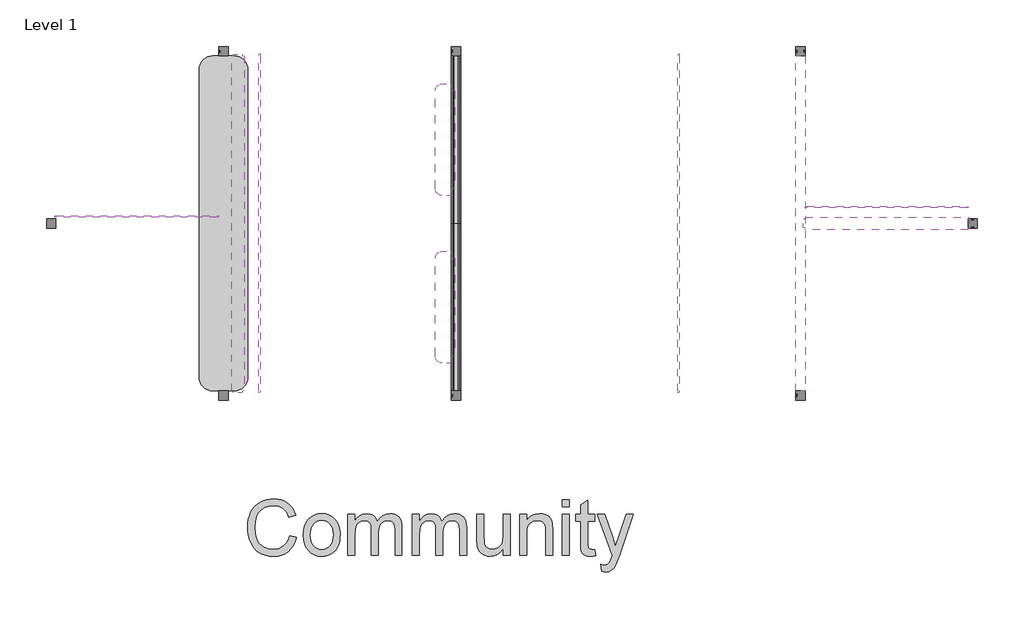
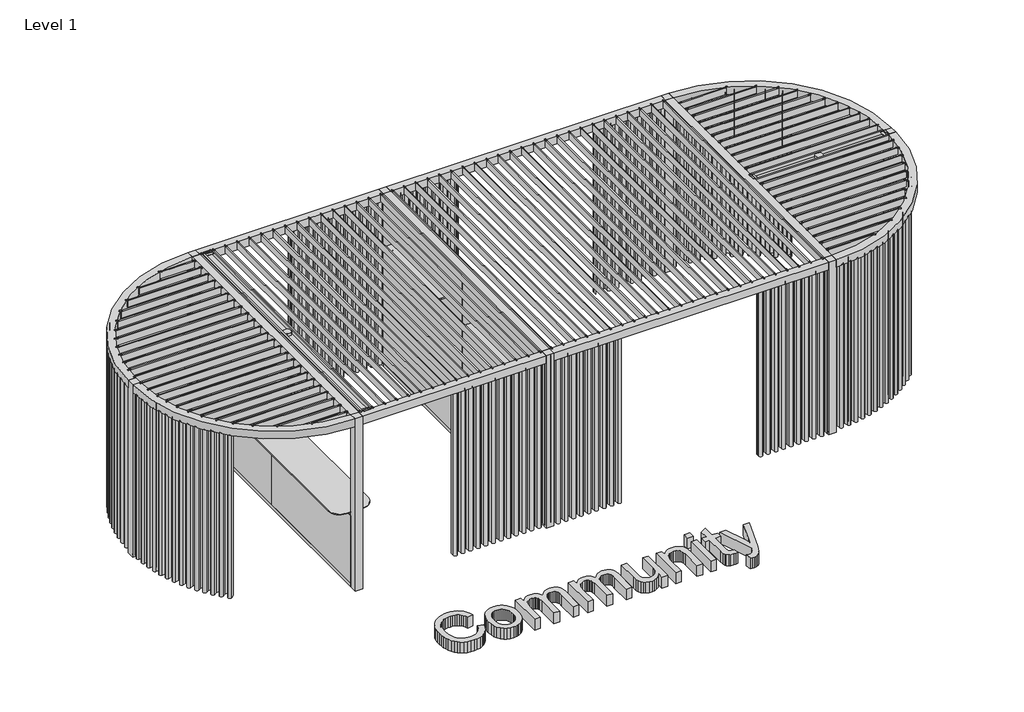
# One storey: 28 furniture elements, 1 proxy.
"""IFC4 building model written with IfcOpenShell, lengths in millimetres."""

from ifc_helpers import new_model, si_unit, origin, origin_with_axes, place, context, project, spatial, polyline, outline, extrude, transform, mapped, element, save
from components import furniture_144w_full_round_0b8315b5, furniture_144w_full_round_390d80ab, furniture_144w_half_round_df257ffa, furniture_144w_half_round_812f437a, furniture_48w_25386db9, furniture_72_in_radius_half_open_drapery_9427be67, furniture_72_in_radius_half_open_drapery_df3e1c9b, haworth_pergola_ceiling_lighttrough_144w_fb86ef7f, haworth_pergola_ceiling_lighttrough_70w_36a8bbfd, haworth_pergola_ceiling_slat_144d_144w_cf5a7e63, haworth_pergola_ceiling_slat_144d_144w_9080f0d2, haworth_pergola_ceiling_slat_96d_144w_e5801aca, haworth_pergola_ceiling_slat_96d_144w_89231c02, haworth_pergola_drapery_straight_144w_half_open_drapery_b4fdcbc4, haworth_pergola_drapery_straight_144w_half_open_drapery_ee76ada1, haworth_pergola_drapery_straight_96w_half_open_drapery_98fae5b1, haworth_pergola_drapery_straight_96w_half_open_drapery_5506e995, haworth_pergola_panel_post_3_way_connector_7bc44f38, haworth_pergola_panel_post_3_way_connector_a8890e0e, haworth_pergola_panel_straighthorizontaltiles_3a19913a, haworth_pergola_panel_straighthorizontaltiles_da99c4b1, haworth_pergola_panel_toprail_straight_144w_aeb962f4, two_sided_144w_44061c4d

model = new_model("IFC4")

# Units and contexts
model_context = context("Model", 3, world=origin())
ifc_project = project(units=[si_unit("LENGTHUNIT", "METRE", prefix="MILLI")], contexts=[model_context])

# Site, building, storey
site = spatial("IfcSite", under=ifc_project)
building = spatial("IfcBuilding", under=site)
storey = spatial("IfcBuildingStorey", under=building, Name="Level 1", Elevation=0.0)

# Proxy
placement = place(None, origin())
element("IfcBuildingElementProxy", 1, Name="24\" Arial", ObjectType="24\" Arial", at=placement, inside=storey, context=model_context, shape_type="SweptSolid", body=[
    extrude(outline(polyline([(-1818.9665001, -3407.4868383), (-1742.8247266, -3427.1171393), (-1757.8913544, -3474.4687341), (-1777.958504, -3515.843869), (-1803.0261752, -3551.2425438), (-1833.0943683, -3580.6647587), (-1867.4845736, -3603.7944954), (-1905.5182818, -3620.315736), (-1947.1954928, -3630.2284803), (-1992.5162066, -3633.5327284), (-2038.9476311, -3631.0324675), (-2080.8339717, -3623.5316849), (-2118.1752284, -3611.0303805), (-2150.9714013, -3593.5285544), (-2179.6732807, -3571.2864568), (-2204.7316574, -3544.5643378), (-2226.1465312, -3513.3621974), (-2243.9179022, -3477.6800357), (-2257.8738193, -3439.0607646), (-2267.8423315, -3399.047296), (-2273.8234388, -3357.6396298), (-2275.8171413, -3314.8377662), (-2273.5631886, -3268.9129001), (-2266.8013307, -3226.01809), (-2255.5315674, -3186.1533357), (-2239.7538989, -3149.3186374), (-2219.8215218, -3116.1227946), (-2196.0876328, -3087.1746069), (-2168.5522319, -3062.4740743), (-2137.2153191, -3042.0211968), (-2103.1411319, -3025.9832781), (-2067.3939077, -3014.5276219), (-2029.9736464, -3007.6542281), (-1990.8803482, -3005.3630969), (-1947.3302652, -3008.3280903), (-1907.3958011, -3017.2230704), (-1871.0769559, -3032.0480373), (-1838.3737295, -3052.8029909), (-1809.8252118, -3078.939547), (-1785.9704923, -3109.9093211), (-1766.8095712, -3145.7123132), (-1752.3424483, -3186.3485234), (-1828.4842218, -3204.4916804), (-1840.4743205, -3174.5489651), (-1854.8810281, -3148.9654407), (-1871.7043447, -3127.7411073), (-1890.9442704, -3110.8759647), (-1912.7123409, -3098.0261109), (-1937.1200921, -3088.847644), (-1964.1675238, -3083.3405638), (-1993.8546362, -3081.5048704), (-2028.0124753, -3083.5403988), (-2059.2517942, -3089.6469839), (-2087.572593, -3099.8246257), (-2112.9748717, -3114.0733243), (-2135.1379649, -3131.7517488), (-2153.741207, -3152.2185683), (-2168.7845982, -3175.4737828), (-2180.2681384, -3201.5173923), (-2194.8235604, -3257.2481143), (-2199.6753677, -3314.6890518), (-2193.931274, -3385.0309637), (-2186.7511568, -3416.632774), (-2176.6989927, -3445.8551538), (-2163.6121254, -3472.1171876), (-2147.3278984, -3494.8379598), (-2127.8463119, -3514.0174702), (-2105.1673656, -3529.655719), (-2080.3924758, -3541.7898847), (-2054.6230585, -3550.4571459), (-2027.8591135, -3555.6575026), (-2000.1006411, -3557.3909549), (-1966.9977448, -3555.0301138), (-1936.5438238, -3547.9475904), (-1908.738878, -3536.1433848), (-1883.5829076, -3519.6174969), (-1861.67077, -3498.444284), (-1843.5973229, -3472.6981033), (-1829.3625663, -3442.3789547), (-1818.9665001, -3407.4868383)])), origin_with_axes(), (0.0, 0.0, 1.0), 152.4),
    extrude(outline(polyline([(-1666.6829531, -3400.348547), (-1662.5654231, -3342.414993), (-1650.2128332, -3292.4934274), (-1629.6251832, -3250.5838501), (-1600.8024733, -3216.6862613), (-1571.7845757, -3195.0204319), (-1539.7552115, -3179.5448395), (-1504.7143807, -3170.2594841), (-1466.6620832, -3167.1643656), (-1424.6549122, -3170.9333462), (-1386.6723246, -3182.240288), (-1352.7143205, -3201.0851911), (-1322.7808999, -3227.4680554), (-1298.3499121, -3260.4965945), (-1280.8992066, -3299.2785219), (-1270.4287833, -3343.8138378), (-1266.9386422, -3394.1025421), (-1268.4815541, -3434.8595828), (-1273.1102898, -3471.0250663), (-1280.8248494, -3502.5989926), (-1291.6252328, -3529.5813618), (-1305.3766676, -3552.8876969), (-1321.9443814, -3573.4335209), (-1341.3283741, -3591.2188339), (-1363.5286459, -3606.2436357), (-1387.6807941, -3618.1826138), (-1412.9204164, -3626.7104552), (-1439.2475128, -3631.8271601), (-1466.6620832, -3633.5327284), (-1509.2827012, -3629.7776898), (-1547.6184855, -3618.5125739), (-1581.6694361, -3599.7373807), (-1611.435553, -3573.4521102), (-1635.6062905, -3540.1029057), (-1652.8711031, -3500.1359103), (-1663.2299906, -3453.5511241), (-1666.6829531, -3400.348547)]), holes=[polyline([(-1590.5411796, -3400.1998326), (-1588.3383475, -3437.1321247), (-1581.7298513, -3469.1103683), (-1570.715691, -3496.1345635), (-1555.2958665, -3518.2047101), (-1536.5392626, -3535.3486922), (-1515.5147641, -3547.5943937), (-1492.222371, -3554.9418146), (-1466.6620832, -3557.3909549), (-1441.2319206, -3554.9278726), (-1418.032474, -3547.5386258), (-1397.0637434, -3535.2232144), (-1378.3257288, -3517.9816385), (-1362.9059043, -3495.6930676), (-1351.891744, -3468.2366712), (-1345.2832477, -3435.6124494), (-1343.0804157, -3397.8204022), (-1345.2971897, -3362.059236), (-1351.9475119, -3330.9175108), (-1363.0313821, -3304.3952268), (-1378.5488004, -3282.4923839), (-1397.3565249, -3265.3484018), (-1418.3113135, -3253.1027003), (-1441.4131663, -3245.7552794), (-1466.6620832, -3243.3061391), (-1492.222371, -3245.7459848), (-1515.5147641, -3253.0655217), (-1536.5392626, -3265.26475), (-1555.2958665, -3282.3436695), (-1570.715691, -3304.3487536), (-1581.7298513, -3331.3264754), (-1588.3383475, -3363.2768351), (-1590.5411796, -3400.1998326)])]), origin_with_axes(), (0.0, 0.0, 1.0), 152.4),
    extrude(outline(polyline([(-1181.2791469, -3624.0150067), (-1181.2791469, -3176.6820873), (-1105.1373734, -3176.6820873), (-1105.1373734, -3250.295716), (-1082.2353556, -3216.481779), (-1052.7899041, -3189.9920262), (-1017.8048412, -3172.8712808), (-978.283989, -3167.1643656), (-935.9375632, -3172.9828166), (-917.9152367, -3180.2558803), (-901.9935011, -3190.4381694), (-888.2188297, -3203.2415499), (-876.6376957, -3218.3778876), (-860.0560399, -3255.6494344), (-832.3022148, -3216.9372168), (-800.6446366, -3189.2856328), (-765.0833053, -3172.6946824), (-725.6182211, -3167.1643656), (-695.1364161, -3169.4647915), (-668.3817658, -3176.3660692), (-645.3542702, -3187.8681987), (-626.0539293, -3203.9711799), (-610.7967612, -3224.860906), (-599.898784, -3250.7232699), (-593.3599976, -3281.5582716), (-591.1804022, -3317.365911), (-591.1804022, -3624.0150067), (-667.3221757, -3624.0150067), (-667.3221757, -3350.0830793), (-669.0881592, -3312.1051391), (-674.3861098, -3286.5076727), (-684.3127961, -3268.9779627), (-699.9649868, -3255.2032912), (-720.0971989, -3246.2804271), (-743.4639492, -3243.3061391), (-765.0414794, -3245.2115424), (-784.7136063, -3250.9277522), (-802.48033, -3260.4547685), (-818.3416503, -3273.7925914), (-831.3866917, -3291.3315961), (-840.7045784, -3313.462158), (-846.2953105, -3340.184277), (-848.1588878, -3371.4979531), (-848.1588878, -3624.0150067), (-924.3006613, -3624.0150067), (-924.3006613, -3341.6063584), (-928.7063255, -3298.5535392), (-934.2134056, -3281.6558654), (-941.9233179, -3267.8440154), (-952.1427857, -3257.1086945), (-965.1785324, -3249.4406082), (-981.0305581, -3244.8397564), (-999.6988628, -3243.3061391), (-1029.0327785, -3247.3957852), (-1056.061621, -3259.6647233), (-1078.3687812, -3279.8155247), (-1093.5376501, -3307.5507605), (-1102.2374426, -3346.0306119), (-1105.1373734, -3398.4152598), (-1105.1373734, -3624.0150067), (-1181.2791469, -3624.0150067)])), origin_with_axes(), (0.0, 0.0, 1.0), 152.4),
    extrude(outline(polyline([(-476.9677419, -3624.0150067), (-476.9677419, -3176.6820873), (-400.8259684, -3176.6820873), (-400.8259684, -3250.295716), (-377.9239506, -3216.481779), (-348.4784991, -3189.9920262), (-313.4934362, -3172.8712808), (-273.972584, -3167.1643656), (-231.6261582, -3172.9828166), (-213.6038317, -3180.2558803), (-197.6820961, -3190.4381694), (-183.9074247, -3203.2415499), (-172.3262906, -3218.3778876), (-155.7446349, -3255.6494344), (-127.9908097, -3216.9372168), (-96.3332315, -3189.2856328), (-60.7719003, -3172.6946824), (-21.306816, -3167.1643656), (9.1749889, -3169.4647915), (35.9296392, -3176.3660692), (58.9571348, -3187.8681987), (78.2574757, -3203.9711799), (93.5146438, -3224.860906), (104.4126211, -3250.7232699), (110.9514074, -3281.5582716), (113.1310028, -3317.365911), (113.1310028, -3624.0150067), (36.9892293, -3624.0150067), (36.9892293, -3350.0830793), (35.2232458, -3312.1051391), (29.9252953, -3286.5076727), (19.998609, -3268.9779627), (4.3464182, -3255.2032912), (-15.7857939, -3246.2804271), (-39.1525442, -3243.3061391), (-60.7300744, -3245.2115424), (-80.4022013, -3250.9277522), (-98.1689249, -3260.4547685), (-114.0302453, -3273.7925914), (-127.0752867, -3291.3315961), (-136.3931734, -3313.462158), (-141.9839054, -3340.184277), (-143.8474828, -3371.4979531), (-143.8474828, -3624.0150067), (-219.9892563, -3624.0150067), (-219.9892563, -3341.6063584), (-224.3949204, -3298.5535392), (-229.9020006, -3281.6558654), (-237.6119129, -3267.8440154), (-247.8313806, -3257.1086945), (-260.8671274, -3249.4406082), (-276.7191531, -3244.8397564), (-295.3874578, -3243.3061391), (-324.7213735, -3247.3957852), (-351.7502159, -3259.6647233), (-374.0573761, -3279.8155247), (-389.2262451, -3307.5507605), (-397.9260376, -3346.0306119), (-400.8259684, -3398.4152598), (-400.8259684, -3624.0150067), (-476.9677419, -3624.0150067)])), origin_with_axes(), (0.0, 0.0, 1.0), 152.4),
    extrude(outline(polyline([(512.8753138, -3624.0150067), (512.8753138, -3547.1296612), (485.325971, -3584.9310031), (453.2408388, -3611.9319616), (416.6199175, -3628.1325367), (375.4632069, -3633.5327284), (338.3775531, -3629.7405112), (303.8572226, -3618.3638595), (274.895093, -3601.2617033), (254.4840414, -3580.2929727), (240.7465485, -3554.8256315), (231.8050952, -3524.2276434), (227.3436631, -3453.4395883), (227.3436631, -3176.6820873), (303.4854366, -3176.6820873), (303.4854366, -3417.5994176), (304.6379732, -3465.7828836), (308.0955831, -3495.2283351), (319.1933953, -3521.1232302), (338.2102494, -3540.8092991), (363.8820729, -3553.2455409), (394.9447935, -3557.3909549), (427.7920869, -3553.1525944), (458.5202001, -3540.4375131), (483.8574162, -3520.4168368), (500.5320185, -3494.2616915), (509.78949, -3458.44011), (512.8753138, -3409.4201255), (512.8753138, -3176.6820873), (589.0170873, -3176.6820873), (589.0170873, -3624.0150067), (512.8753138, -3624.0150067)])), origin_with_axes(), (0.0, 0.0, 1.0), 152.4),
    extrude(outline(polyline([(693.7120259, -3624.0150067), (693.7120259, -3176.6820873), (769.8537994, -3176.6820873), (769.8537994, -3239.1421359), (796.3063736, -3207.6518614), (828.0754876, -3185.1588082), (865.1611414, -3171.6629762), (907.5633351, -3167.1643656), (945.0951322, -3170.7892791), (979.4667482, -3181.6640197), (1008.1314491, -3198.4315685), (1028.5425007, -3219.7349065), (1042.3915293, -3245.5182658), (1051.3701613, -3275.7258786), (1055.3854501, -3349.3395073), (1055.3854501, -3624.0150067), (979.2436766, -3624.0150067), (979.2436766, -3359.600801), (977.0501392, -3320.2286632), (970.4695269, -3292.2331772), (958.3307139, -3272.1753223), (939.4625742, -3256.616078), (915.2778947, -3246.6336239), (887.1894621, -3243.3061391), (864.06902, -3245.1743638), (842.593731, -3250.7790378), (822.7635951, -3260.1201611), (804.5786122, -3273.1977338), (789.3865066, -3291.4988998), (778.5350026, -3316.5108032), (772.0241002, -3348.233444), (769.8537994, -3386.6668221), (769.8537994, -3624.0150067), (693.7120259, -3624.0150067)])), origin_with_axes(), (0.0, 0.0, 1.0), 152.4),
    extrude(outline(polyline([(1160.0803887, -3091.0225921), (1160.0803887, -3014.8808186), (1236.2221622, -3014.8808186), (1236.2221622, -3091.0225921), (1160.0803887, -3091.0225921)])), origin_with_axes(), (0.0, 0.0, 1.0), 152.4),
    extrude(outline(polyline([(1160.0803887, -3624.0150067), (1160.0803887, -3176.6820873), (1236.2221622, -3176.6820873), (1236.2221622, -3624.0150067), (1160.0803887, -3624.0150067)])), origin_with_axes(), (0.0, 0.0, 1.0), 152.4),
    extrude(outline(polyline([(1512.2360912, -3560.5139573), (1521.7538129, -3626.2457227), (1491.601968, -3631.710977), (1464.7961972, -3633.5327284), (1428.249633, -3630.3725474), (1400.997719, -3620.8920043), (1381.739204, -3606.2808143), (1369.1728371, -3587.7286928), (1362.2576174, -3555.8666323), (1359.9525442, -3501.3256255), (1359.9525442, -3252.8238608), (1302.8462141, -3252.8238608), (1302.8462141, -3176.6820873), (1359.9525442, -3176.6820873), (1359.9525442, -3067.9718599), (1436.0943177, -3023.208825), (1436.0943177, -3176.6820873), (1512.2360912, -3176.6820873), (1512.2360912, -3252.8238608), (1436.0943177, -3252.8238608), (1436.0943177, -3499.0949095), (1440.1096065, -3538.3555115), (1453.1221167, -3552.260308), (1464.1083931, -3556.1082932), (1479.0727797, -3557.3909549), (1512.2360912, -3560.5139573)])), origin_with_axes(), (0.0, 0.0, 1.0), 152.4),
    extrude(outline(polyline([(1588.3778647, -3795.3339971), (1578.860143, -3722.0177972), (1617.5258874, -3728.7099453), (1637.8625818, -3726.6093544), (1653.663487, -3720.3075816), (1665.9696037, -3710.2507702), (1675.8219328, -3696.8850634), (1696.641949, -3640.8197341), (1702.590525, -3622.3791483), (1540.7892563, -3176.6820873), (1621.095033, -3176.6820873), (1706.9032427, -3425.0351376), (1736.7948373, -3524.3763578), (1766.686432, -3436.6348609), (1854.874072, -3176.6820873), (1934.5849912, -3176.6820873), (1778.8810129, -3634.7224436), (1738.4306958, -3734.0636637), (1717.7222154, -3765.7770098), (1694.2625185, -3787.7495626), (1667.0106045, -3800.5761798), (1634.9254724, -3804.8517188), (1612.8785624, -3802.4722884), (1588.3778647, -3795.3339971)])), origin_with_axes(), (0.0, 0.0, 1.0), 152.4),
])

# Furniture
furniture_144w_full_round_shape = furniture_144w_full_round_0b8315b5(model_context)
furniture_144w_full_round_2_shape = furniture_144w_full_round_390d80ab(model_context)
element("IfcFurniture", 2, ObjectType="Haworth_Pergola_Ceiling_Slat_Radial : 144w - Full Round", at=placement, inside=storey, context=model_context, shape_type="MappedRepresentation", body=[
    mapped(furniture_144w_full_round_shape, transform((-4843.907, -38.0959058, 0.0), x_axis=(0.0, 1.0, 0.0), y_axis=(-1.0, 0.0, 0.0), z_axis=(0.0, 0.0, 1.0))),
    mapped(furniture_144w_full_round_2_shape, transform((-4843.907, -38.0959058, 0.0), x_axis=(0.0, 1.0, 0.0), y_axis=(-1.0, 0.0, 0.0), z_axis=(0.0, 0.0, 1.0))),
])
furniture_144w_half_round_shape = furniture_144w_half_round_df257ffa(model_context)
furniture_144w_half_round_2_shape = furniture_144w_half_round_812f437a(model_context)
element("IfcFurniture", 3, ObjectType="Haworth_Pergola_Ceiling_Slat_Radial : 144w - Half Round", at=placement, inside=storey, context=model_context, shape_type="MappedRepresentation", body=[
    mapped(furniture_144w_half_round_shape, transform((6063.107, 38.1040942, 0.0), x_axis=(0.0, -1.0, 0.0), y_axis=(1.0, 0.0, 0.0), z_axis=(0.0, 0.0, 1.0))),
    mapped(furniture_144w_half_round_2_shape, transform((6063.107, 38.1040942, 0.0), x_axis=(0.0, -1.0, 0.0), y_axis=(1.0, 0.0, 0.0), z_axis=(0.0, 0.0, 1.0))),
])
furniture_48w_shape = furniture_48w_25386db9(model_context)
element("IfcFurniture", 4, ObjectType="Haworth_Pergola_Accessory_TetheredLedge : 48w", at=placement, inside=storey, context=model_context, shape_type="MappedRepresentation", body=[
    mapped(furniture_48w_shape, transform((-562.2082776, -829.9535944, 914.4), x_axis=(0.0, -1.0, 0.0), y_axis=(1.0, 0.0, 0.0), z_axis=(0.0, 0.0, 1.0))),
])
element("IfcFurniture", 5, ObjectType="Haworth_Pergola_Accessory_TetheredLedge : 48w", at=placement, inside=storey, context=model_context, shape_type="MappedRepresentation", body=[
    mapped(furniture_48w_shape, transform((-562.2082776, 998.8477704, 914.4), x_axis=(0.0, -1.0, 0.0), y_axis=(1.0, 0.0, 0.0), z_axis=(0.0, 0.0, 1.0))),
])
furniture_72_in_radius_half_open_drapery_shape = furniture_72_in_radius_half_open_drapery_9427be67(model_context)
element("IfcFurniture", 6, ObjectType="Haworth_Pergola_Drapery_Radial : 72 in. radius - Half Open Drapery", at=placement, inside=storey, context=model_context, shape_type="MappedRepresentation", body=[
    mapped(furniture_72_in_radius_half_open_drapery_shape, transform((-2628.9, 50.8040942, 0.0), x_axis=(1.0, 0.0, 0.0), y_axis=(0.0, 1.0, 0.0), z_axis=(0.0, 0.0, 1.0))),
])
element("IfcFurniture", 7, ObjectType="Haworth_Pergola_Drapery_Radial : 72 in. radius - Half Open Drapery", at=placement, inside=storey, context=model_context, shape_type="MappedRepresentation", body=[
    mapped(furniture_72_in_radius_half_open_drapery_shape, transform((3810.0, 88.9040942, 0.0), x_axis=(0.0, -1.0, 0.0), y_axis=(1.0, 0.0, 0.0), z_axis=(0.0, 0.0, 1.0))),
])
furniture_72_in_radius_half_open_drapery_2_shape = furniture_72_in_radius_half_open_drapery_df3e1c9b(model_context)
element("IfcFurniture", 8, ObjectType="Haworth_Pergola_Drapery_Radial : 72 in. radius - Half Open Drapery", at=placement, inside=storey, context=model_context, shape_type="MappedRepresentation", body=[
    mapped(furniture_72_in_radius_half_open_drapery_2_shape, transform((3810.0, -88.8959058, 0.0), x_axis=(0.0, 1.0, 0.0), y_axis=(-1.0, 0.0, 0.0), z_axis=(0.0, 0.0, 1.0))),
])
element("IfcFurniture", 9, ObjectType="Haworth_Pergola_Drapery_Radial : 72 in. radius - Half Open Drapery", at=placement, inside=storey, context=model_context, shape_type="MappedRepresentation", body=[
    mapped(furniture_72_in_radius_half_open_drapery_2_shape, transform((-2628.9, -50.7959058, 0.0), x_axis=(1.0, 0.0, 0.0), y_axis=(0.0, 1.0, 0.0), z_axis=(0.0, 0.0, 1.0))),
])
haworth_pergola_ceiling_lighttrough_144w_shape = haworth_pergola_ceiling_lighttrough_144w_fb86ef7f(model_context)
element("IfcFurniture", 10, ObjectType="Haworth_Pergola_Ceiling_LightTrough : 144w", at=placement, inside=storey, context=model_context, shape_type="MappedRepresentation", body=[
    mapped(haworth_pergola_ceiling_lighttrough_144w_shape, transform((-2382.3389306, -989.7918116, 0.0), x_axis=(0.0, 1.0, 0.0), y_axis=(-1.0, 0.0, 0.0), z_axis=(0.0, 0.0, 1.0))),
])
haworth_pergola_ceiling_lighttrough_70w_shape = haworth_pergola_ceiling_lighttrough_70w_36a8bbfd(model_context)
element("IfcFurniture", 11, ObjectType="Haworth_Pergola_Ceiling_LightTrough : 70w", at=placement, inside=storey, context=model_context, shape_type="MappedRepresentation", body=[
    mapped(haworth_pergola_ceiling_lighttrough_70w_shape, transform((4649.0898677, 0.0040942, 0.0), x_axis=(1.0, 0.0, 0.0), y_axis=(0.0, 1.0, 0.0), z_axis=(0.0, 0.0, 1.0))),
])
haworth_pergola_ceiling_slat_144d_144w_shape = haworth_pergola_ceiling_slat_144d_144w_cf5a7e63(model_context)
haworth_pergola_ceiling_slat_144d_144w_2_shape = haworth_pergola_ceiling_slat_144d_144w_9080f0d2(model_context)
element("IfcFurniture", 12, ObjectType="Haworth_Pergola_Ceiling_Slat : 144d 144w", at=placement, inside=storey, context=model_context, shape_type="MappedRepresentation", body=[
    mapped(haworth_pergola_ceiling_slat_144d_144w_shape, transform((3218.307, 38.1040942, 0.0), x_axis=(0.0, -1.0, 0.0), y_axis=(1.0, 0.0, 0.0), z_axis=(0.0, 0.0, 1.0))),
    mapped(haworth_pergola_ceiling_slat_144d_144w_2_shape, transform((3218.307, 38.1040942, 0.0), x_axis=(0.0, -1.0, 0.0), y_axis=(1.0, 0.0, 0.0), z_axis=(0.0, 0.0, 1.0))),
])
haworth_pergola_ceiling_slat_96d_144w_shape = haworth_pergola_ceiling_slat_96d_144w_e5801aca(model_context)
haworth_pergola_ceiling_slat_96d_144w_2_shape = haworth_pergola_ceiling_slat_96d_144w_89231c02(model_context)
element("IfcFurniture", 13, ObjectType="Haworth_Pergola_Ceiling_Slat : 96d 144w", at=placement, inside=storey, context=model_context, shape_type="MappedRepresentation", body=[
    mapped(haworth_pergola_ceiling_slat_96d_144w_shape, transform((68.707, 38.1040942, 0.0), x_axis=(0.0, -1.0, 0.0), y_axis=(1.0, 0.0, 0.0), z_axis=(0.0, 0.0, 1.0))),
    mapped(haworth_pergola_ceiling_slat_96d_144w_2_shape, transform((68.707, 38.1040942, 0.0), x_axis=(0.0, -1.0, 0.0), y_axis=(1.0, 0.0, 0.0), z_axis=(0.0, 0.0, 1.0))),
])
haworth_pergola_drapery_straight_144w_half_open_drapery_shape = haworth_pergola_drapery_straight_144w_half_open_drapery_b4fdcbc4(model_context)
element("IfcFurniture", 14, ObjectType="Haworth_Pergola_Drapery_Straight : 144w - Half Open Drapery", at=placement, inside=storey, context=model_context, shape_type="MappedRepresentation", body=[
    mapped(haworth_pergola_drapery_straight_144w_half_open_drapery_shape, transform((1841.5, 1879.6081884, 0.0), x_axis=(1.0, 0.0, 0.0), y_axis=(0.0, 1.0, 0.0), z_axis=(0.0, 0.0, 1.0))),
])
haworth_pergola_drapery_straight_144w_half_open_drapery_2_shape = haworth_pergola_drapery_straight_144w_half_open_drapery_ee76ada1(model_context)
element("IfcFurniture", 15, ObjectType="Haworth_Pergola_Drapery_Straight : 144w - Half Open Drapery", at=placement, inside=storey, context=model_context, shape_type="MappedRepresentation", body=[
    mapped(haworth_pergola_drapery_straight_144w_half_open_drapery_2_shape, transform((1841.5, -1879.5918116, 0.0), x_axis=(1.0, 0.0, 0.0), y_axis=(0.0, 1.0, 0.0), z_axis=(0.0, 0.0, 1.0))),
])
haworth_pergola_drapery_straight_96w_half_open_drapery_shape = haworth_pergola_drapery_straight_96w_half_open_drapery_98fae5b1(model_context)
element("IfcFurniture", 16, ObjectType="Haworth_Pergola_Drapery_Straight : 96w - Half Open Drapery", at=placement, inside=storey, context=model_context, shape_type="MappedRepresentation", body=[
    mapped(haworth_pergola_drapery_straight_96w_half_open_drapery_shape, transform((-1841.5, -1879.5918116, 0.0), x_axis=(-1.0, 0.0, 0.0), y_axis=(0.0, -1.0, 0.0), z_axis=(0.0, 0.0, 1.0))),
])
haworth_pergola_drapery_straight_96w_half_open_drapery_2_shape = haworth_pergola_drapery_straight_96w_half_open_drapery_5506e995(model_context)
element("IfcFurniture", 17, ObjectType="Haworth_Pergola_Drapery_Straight : 96w - Half Open Drapery", at=placement, inside=storey, context=model_context, shape_type="MappedRepresentation", body=[
    mapped(haworth_pergola_drapery_straight_96w_half_open_drapery_2_shape, transform((-1841.5, 1879.6081884, 0.0), x_axis=(-1.0, 0.0, 0.0), y_axis=(0.0, -1.0, 0.0), z_axis=(0.0, 0.0, 1.0))),
])
haworth_pergola_panel_post_3_way_connector_shape = haworth_pergola_panel_post_3_way_connector_7bc44f38(model_context)
element("IfcFurniture", 18, ObjectType="Haworth_Pergola_Panel_Post : 3-Way Connector", at=placement, inside=storey, context=model_context, shape_type="MappedRepresentation", body=[
    mapped(haworth_pergola_panel_post_3_way_connector_shape, transform((-2578.1, -1879.6, 0.0), x_axis=(1.0, 0.0, 0.0), y_axis=(0.0, 1.0, 0.0), z_axis=(0.0, 0.0, 1.0))),
])
element("IfcFurniture", 19, ObjectType="Haworth_Pergola_Panel_Post : 3-Way Connector", at=placement, inside=storey, context=model_context, shape_type="MappedRepresentation", body=[
    mapped(haworth_pergola_panel_post_3_way_connector_shape, transform((-38.1, -1879.6, 0.0), x_axis=(1.0, 0.0, 0.0), y_axis=(0.0, 1.0, 0.0), z_axis=(0.0, 0.0, 1.0))),
])
element("IfcFurniture", 20, ObjectType="Haworth_Pergola_Panel_Post : 3-Way Connector", at=placement, inside=storey, context=model_context, shape_type="MappedRepresentation", body=[
    mapped(haworth_pergola_panel_post_3_way_connector_shape, transform((3721.1939619, -1879.6, 0.0), x_axis=(1.0, 0.0, 0.0), y_axis=(0.0, 1.0, 0.0), z_axis=(0.0, 0.0, 1.0))),
])
haworth_pergola_panel_post_3_way_connector_2_shape = haworth_pergola_panel_post_3_way_connector_a8890e0e(model_context)
element("IfcFurniture", 21, ObjectType="Haworth_Pergola_Panel_Post : 3-Way Connector", at=placement, inside=storey, context=model_context, shape_type="MappedRepresentation", body=[
    mapped(haworth_pergola_panel_post_3_way_connector_2_shape, transform((-4419.5101323, -38.0959058, 0.0), x_axis=(0.0, 1.0, 0.0), y_axis=(-1.0, 0.0, 0.0), z_axis=(0.0, 0.0, 1.0))),
])
element("IfcFurniture", 22, ObjectType="Haworth_Pergola_Panel_Post : 3-Way Connector", at=placement, inside=storey, context=model_context, shape_type="MappedRepresentation", body=[
    mapped(haworth_pergola_panel_post_3_way_connector_2_shape, transform((5638.8040942, 38.1040942, 0.0), x_axis=(0.0, -1.0, 0.0), y_axis=(1.0, 0.0, 0.0), z_axis=(0.0, 0.0, 1.0))),
])
element("IfcFurniture", 23, ObjectType="Haworth_Pergola_Panel_Post : 3-Way Connector", at=placement, inside=storey, context=model_context, shape_type="MappedRepresentation", body=[
    mapped(haworth_pergola_panel_post_3_way_connector_2_shape, transform((-2578.1, 1879.6081884, 0.0), x_axis=(1.0, 0.0, 0.0), y_axis=(0.0, 1.0, 0.0), z_axis=(0.0, 0.0, 1.0))),
])
element("IfcFurniture", 24, ObjectType="Haworth_Pergola_Panel_Post : 3-Way Connector", at=placement, inside=storey, context=model_context, shape_type="MappedRepresentation", body=[
    mapped(haworth_pergola_panel_post_3_way_connector_2_shape, transform((-38.1, 1879.6081884, 0.0), x_axis=(1.0, 0.0, 0.0), y_axis=(0.0, 1.0, 0.0), z_axis=(0.0, 0.0, 1.0))),
])
element("IfcFurniture", 25, ObjectType="Haworth_Pergola_Panel_Post : 3-Way Connector", at=placement, inside=storey, context=model_context, shape_type="MappedRepresentation", body=[
    mapped(haworth_pergola_panel_post_3_way_connector_2_shape, transform((3721.1, 1879.6081884, 0.0), x_axis=(1.0, 0.0, 0.0), y_axis=(0.0, 1.0, 0.0), z_axis=(0.0, 0.0, 1.0))),
])
haworth_pergola_panel_straighthorizontaltiles_shape = haworth_pergola_panel_straighthorizontaltiles_3a19913a(model_context)
element("IfcFurniture", 26, ObjectType="Haworth_Pergola_Panel_StraightHorizontalTiles : Horizontal Tiles (40h 36h 16h)- 96h 144w", at=placement, inside=storey, context=model_context, shape_type="MappedRepresentation", body=[
    mapped(haworth_pergola_panel_straighthorizontaltiles_shape, transform((0.0, -38.1, 0.0), x_axis=(0.0, 1.0, 0.0), y_axis=(-1.0, 0.0, 0.0), z_axis=(0.0, 0.0, 1.0))),
])
haworth_pergola_panel_straighthorizontaltiles_2_shape = haworth_pergola_panel_straighthorizontaltiles_da99c4b1(model_context)
element("IfcFurniture", 27, ObjectType="Haworth_Pergola_Panel_StraightHorizontalTiles : Horizontal Tiles (40h 36h 16h)- 96h 144w", at=placement, inside=storey, context=model_context, shape_type="MappedRepresentation", body=[
    mapped(haworth_pergola_panel_straighthorizontaltiles_2_shape, transform((-2540.0, 38.1081884, 0.0), x_axis=(0.0, -1.0, 0.0), y_axis=(1.0, 0.0, 0.0), z_axis=(0.0, 0.0, 1.0))),
])
haworth_pergola_panel_toprail_straight_144w_shape = haworth_pergola_panel_toprail_straight_144w_aeb962f4(model_context)
element("IfcFurniture", 28, ObjectType="Haworth_Pergola_Panel_TopRail_Straight : 144w", at=placement, inside=storey, context=model_context, shape_type="MappedRepresentation", body=[
    mapped(haworth_pergola_panel_toprail_straight_144w_shape, transform((3759.2, -1511.2918116, 0.0), x_axis=(0.0, 1.0, 0.0), y_axis=(-1.0, 0.0, 0.0), z_axis=(0.0, 0.0, 1.0))),
])
two_sided_144w_shape = two_sided_144w_44061c4d(model_context)
element("IfcFurniture", 29, ObjectType="Haworth_Pergola_Accessory_SpanningTop : Two-Sided - 144w", at=placement, inside=storey, context=model_context, shape_type="MappedRepresentation", body=[
    mapped(two_sided_144w_shape, transform((-2346.9707575, 591.514177, 330.2), x_axis=(0.0, -1.0, 0.0), y_axis=(1.0, 0.0, 0.0), z_axis=(0.0, 0.0, 1.0))),
])

save(model, "model.ifc")
